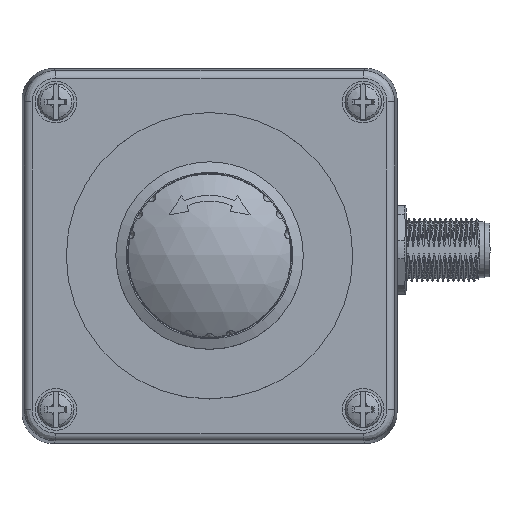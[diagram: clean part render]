
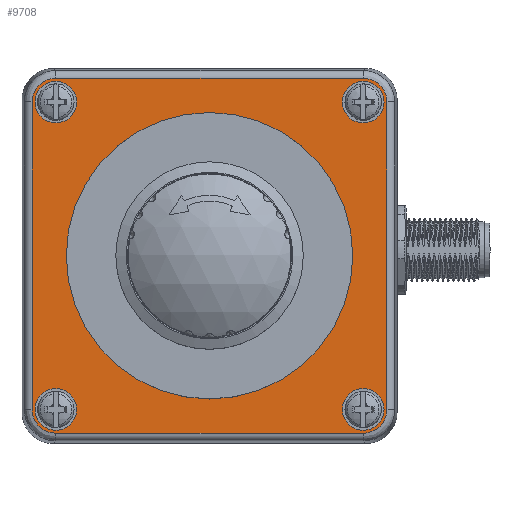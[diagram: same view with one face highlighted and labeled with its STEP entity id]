
A CAD part, top view. The second image highlights one B-rep face of the part: STEP entity #9708.
In plain terms, the highlighted planar face has unit normal (0, 0, 1).
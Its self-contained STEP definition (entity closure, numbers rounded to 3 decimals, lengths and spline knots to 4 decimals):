
#72=FACE_BOUND('',#2491,.T.);
#73=FACE_BOUND('',#2492,.T.);
#74=FACE_BOUND('',#2493,.T.);
#75=FACE_BOUND('',#2494,.T.);
#76=FACE_BOUND('',#2495,.T.);
#267=ELLIPSE('',#10234,0.4501,0.45);
#268=ELLIPSE('',#10238,0.4501,0.45);
#269=ELLIPSE('',#10242,0.4501,0.45);
#270=ELLIPSE('',#10246,0.4501,0.45);
#1068=CIRCLE('',#10252,0.4);
#1071=CIRCLE('',#10257,0.4);
#1074=CIRCLE('',#10262,0.4);
#1077=CIRCLE('',#10267,0.4);
#1214=CIRCLE('',#10565,1.3825);
#1913=FACE_OUTER_BOUND('',#2490,.T.);
#2490=EDGE_LOOP('',(#8454,#8455,#8456,#8457,#8458,#8459,#8460,#8461));
#2491=EDGE_LOOP('',(#8462));
#2492=EDGE_LOOP('',(#8463));
#2493=EDGE_LOOP('',(#8464));
#2494=EDGE_LOOP('',(#8465));
#2495=EDGE_LOOP('',(#8466));
#2815=LINE('',#36536,#3250);
#2816=LINE('',#36573,#3251);
#2817=LINE('',#36610,#3252);
#2818=LINE('',#36645,#3253);
#3250=VECTOR('',#11895,1.);
#3251=VECTOR('',#11904,1.);
#3252=VECTOR('',#11913,1.);
#3253=VECTOR('',#11920,1.);
#4038=VERTEX_POINT('',#36528);
#4039=VERTEX_POINT('',#36530);
#4040=VERTEX_POINT('',#36534);
#4041=VERTEX_POINT('',#36567);
#4042=VERTEX_POINT('',#36571);
#4043=VERTEX_POINT('',#36604);
#4044=VERTEX_POINT('',#36608);
#4045=VERTEX_POINT('',#36641);
#4048=VERTEX_POINT('',#36652);
#4051=VERTEX_POINT('',#36661);
#4054=VERTEX_POINT('',#36670);
#4057=VERTEX_POINT('',#36679);
#4290=VERTEX_POINT('',#45851);
#5285=EDGE_CURVE('',#4039,#4038,#267,.T.);
#5287=EDGE_CURVE('',#4040,#4039,#2815,.T.);
#5289=EDGE_CURVE('',#4041,#4040,#268,.T.);
#5291=EDGE_CURVE('',#4042,#4041,#2816,.T.);
#5293=EDGE_CURVE('',#4043,#4042,#269,.T.);
#5295=EDGE_CURVE('',#4044,#4043,#2817,.T.);
#5297=EDGE_CURVE('',#4045,#4044,#270,.T.);
#5298=EDGE_CURVE('',#4038,#4045,#2818,.T.);
#5301=EDGE_CURVE('',#4048,#4048,#1068,.T.);
#5305=EDGE_CURVE('',#4051,#4051,#1071,.T.);
#5309=EDGE_CURVE('',#4054,#4054,#1074,.T.);
#5313=EDGE_CURVE('',#4057,#4057,#1077,.T.);
#5683=EDGE_CURVE('',#4290,#4290,#1214,.T.);
#8454=ORIENTED_EDGE('',*,*,#5298,.F.);
#8455=ORIENTED_EDGE('',*,*,#5285,.F.);
#8456=ORIENTED_EDGE('',*,*,#5287,.F.);
#8457=ORIENTED_EDGE('',*,*,#5289,.F.);
#8458=ORIENTED_EDGE('',*,*,#5291,.F.);
#8459=ORIENTED_EDGE('',*,*,#5293,.F.);
#8460=ORIENTED_EDGE('',*,*,#5295,.F.);
#8461=ORIENTED_EDGE('',*,*,#5297,.F.);
#8462=ORIENTED_EDGE('',*,*,#5301,.T.);
#8463=ORIENTED_EDGE('',*,*,#5305,.T.);
#8464=ORIENTED_EDGE('',*,*,#5309,.T.);
#8465=ORIENTED_EDGE('',*,*,#5313,.T.);
#8466=ORIENTED_EDGE('',*,*,#5683,.T.);
#8656=PLANE('',#10564);
#9708=ADVANCED_FACE('',(#1913,#72,#73,#74,#75,#76),#8656,.F.);
#10234=AXIS2_PLACEMENT_3D('',#36532,#11889,#11890);
#10238=AXIS2_PLACEMENT_3D('',#36569,#11898,#11899);
#10242=AXIS2_PLACEMENT_3D('',#36606,#11907,#11908);
#10246=AXIS2_PLACEMENT_3D('',#36643,#11916,#11917);
#10252=AXIS2_PLACEMENT_3D('',#36653,#11929,#11930);
#10257=AXIS2_PLACEMENT_3D('',#36662,#11940,#11941);
#10262=AXIS2_PLACEMENT_3D('',#36671,#11951,#11952);
#10267=AXIS2_PLACEMENT_3D('',#36680,#11962,#11963);
#10564=AXIS2_PLACEMENT_3D('',#45850,#12669,#12670);
#10565=AXIS2_PLACEMENT_3D('',#45852,#12671,#12672);
#11889=DIRECTION('center_axis',(0.,0.,
-1.));
#11890=DIRECTION('ref_axis',(-0.707,-0.707,0.));
#11895=DIRECTION('',(-1.,0.,0.));
#11898=DIRECTION('center_axis',(0.,0.,
-1.));
#11899=DIRECTION('ref_axis',(0.707,-0.707,0.));
#11904=DIRECTION('',(0.,-1.,0.));
#11907=DIRECTION('center_axis',(0.,0.,
-1.));
#11908=DIRECTION('ref_axis',(0.707,0.707,0.));
#11913=DIRECTION('',(1.,0.,0.));
#11916=DIRECTION('center_axis',(0.,0.,
-1.));
#11917=DIRECTION('ref_axis',(-0.707,0.707,0.));
#11920=DIRECTION('',(0.,1.,0.));
#11929=DIRECTION('center_axis',(0.,0.,
-1.));
#11930=DIRECTION('ref_axis',(0.,1.,0.));
#11940=DIRECTION('center_axis',(0.,0.,
-1.));
#11941=DIRECTION('ref_axis',(0.,1.,0.));
#11951=DIRECTION('center_axis',(0.,0.,
-1.));
#11952=DIRECTION('ref_axis',(0.,1.,0.));
#11962=DIRECTION('center_axis',(0.,0.,
-1.));
#11963=DIRECTION('ref_axis',(0.,1.,0.));
#12669=DIRECTION('center_axis',(0.,0.,
-1.));
#12670=DIRECTION('ref_axis',(0.,1.,0.));
#12671=DIRECTION('center_axis',(0.,0.,
-1.));
#12672=DIRECTION('ref_axis',(0.707,0.707,0.));
#36528=CARTESIAN_POINT('',(-1.3264,-4.8106,6.1));
#36530=CARTESIAN_POINT('',(-0.8764,-5.2605,6.1));
#36532=CARTESIAN_POINT('Origin',(-0.8763,-4.8105,6.1));
#36534=CARTESIAN_POINT('',(5.0347,-5.2605,6.1));
#36536=CARTESIAN_POINT('',(3.8791,-5.2605,6.1));
#36567=CARTESIAN_POINT('',(5.4846,-4.8106,6.1));
#36569=CARTESIAN_POINT('Origin',(5.0345,-4.8105,6.1));
#36571=CARTESIAN_POINT('',(5.4846,1.1005,6.1));
#36573=CARTESIAN_POINT('',(5.4846,-0.0551,6.1));
#36604=CARTESIAN_POINT('',(5.0347,1.5504,6.1));
#36606=CARTESIAN_POINT('Origin',(5.0345,1.1003,6.1));
#36608=CARTESIAN_POINT('',(-0.8764,1.5504,6.1));
#36610=CARTESIAN_POINT('',(0.2791,1.5504,6.1));
#36641=CARTESIAN_POINT('',(-1.3264,1.1005,6.1));
#36643=CARTESIAN_POINT('Origin',(-0.8763,1.1003,6.1));
#36645=CARTESIAN_POINT('',(-1.3264,-3.6551,6.1));
#36652=CARTESIAN_POINT('',(5.0291,0.6949,6.1));
#36653=CARTESIAN_POINT('Origin',(5.0291,1.0949,6.1));
#36661=CARTESIAN_POINT('',(5.0291,-5.2051,6.1));
#36662=CARTESIAN_POINT('Origin',(5.0291,-4.8051,6.1));
#36670=CARTESIAN_POINT('',(-0.8709,-5.2051,6.1));
#36671=CARTESIAN_POINT('Origin',(-0.8709,-4.8051,6.1));
#36679=CARTESIAN_POINT('',(-0.8709,0.6949,6.1));
#36680=CARTESIAN_POINT('Origin',(-0.8709,1.0949,6.1));
#45850=CARTESIAN_POINT('Origin',(2.0791,-1.8551,6.1));
#45851=CARTESIAN_POINT('',(1.1015,-2.8327,6.1));
#45852=CARTESIAN_POINT('Origin',(2.0791,-1.8551,6.1));
